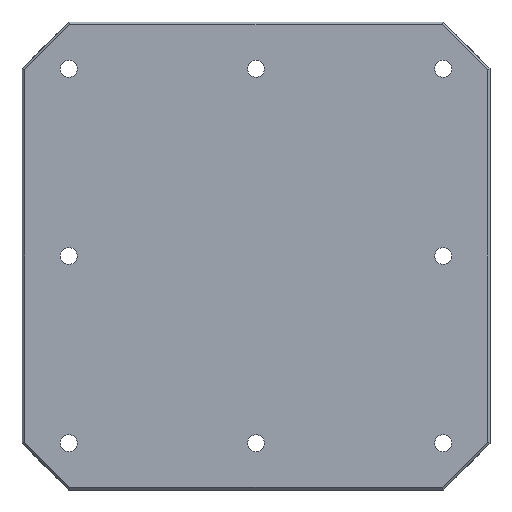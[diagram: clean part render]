
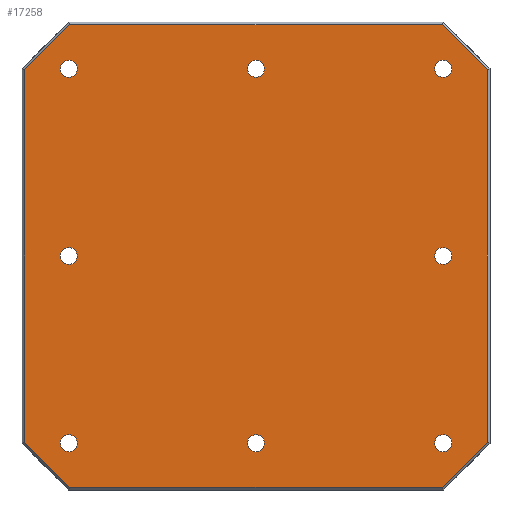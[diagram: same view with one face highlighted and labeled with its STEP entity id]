
A CAD part, front view. The second image highlights one B-rep face of the part: STEP entity #17258.
In plain terms, the highlighted planar face has unit normal (0, -1, 0).
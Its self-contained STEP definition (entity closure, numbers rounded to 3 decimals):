
#6049=CARTESIAN_POINT('',(200.,-30.,0.));
#6050=DIRECTION('',(0.,-1.,0.));
#6051=DIRECTION('',(1.,0.,0.));
#6052=AXIS2_PLACEMENT_3D('',#6049,#6050,#6051);
#6054=CARTESIAN_POINT('',(200.,-30.,0.));
#6055=DIRECTION('',(0.,-1.,0.));
#6056=DIRECTION('',(-1.,0.,0.));
#6057=AXIS2_PLACEMENT_3D('',#6054,#6055,#6056);
#6059=CARTESIAN_POINT('',(-200.,-30.,0.));
#6060=DIRECTION('',(0.,-1.,0.));
#6061=DIRECTION('',(1.,0.,0.));
#6062=AXIS2_PLACEMENT_3D('',#6059,#6060,#6061);
#6064=CARTESIAN_POINT('',(-200.,-30.,0.));
#6065=DIRECTION('',(0.,-1.,0.));
#6066=DIRECTION('',(-1.,0.,0.));
#6067=AXIS2_PLACEMENT_3D('',#6064,#6065,#6066);
#6069=CARTESIAN_POINT('',(200.,-30.,200.));
#6070=DIRECTION('',(0.,-1.,0.));
#6071=DIRECTION('',(1.,0.,0.));
#6072=AXIS2_PLACEMENT_3D('',#6069,#6070,#6071);
#6074=CARTESIAN_POINT('',(200.,-30.,200.));
#6075=DIRECTION('',(0.,-1.,0.));
#6076=DIRECTION('',(-1.,0.,0.));
#6077=AXIS2_PLACEMENT_3D('',#6074,#6075,#6076);
#6079=CARTESIAN_POINT('',(0.,-30.,200.));
#6080=DIRECTION('',(0.,-1.,0.));
#6081=DIRECTION('',(1.,0.,0.));
#6082=AXIS2_PLACEMENT_3D('',#6079,#6080,#6081);
#6084=CARTESIAN_POINT('',(0.,-30.,200.));
#6085=DIRECTION('',(0.,-1.,0.));
#6086=DIRECTION('',(-1.,0.,0.));
#6087=AXIS2_PLACEMENT_3D('',#6084,#6085,#6086);
#6089=CARTESIAN_POINT('',(-200.,-30.,200.));
#6090=DIRECTION('',(0.,-1.,0.));
#6091=DIRECTION('',(1.,0.,0.));
#6092=AXIS2_PLACEMENT_3D('',#6089,#6090,#6091);
#6094=CARTESIAN_POINT('',(-200.,-30.,200.));
#6095=DIRECTION('',(0.,-1.,0.));
#6096=DIRECTION('',(-1.,0.,0.));
#6097=AXIS2_PLACEMENT_3D('',#6094,#6095,#6096);
#6099=CARTESIAN_POINT('',(200.,-30.,-200.));
#6100=DIRECTION('',(0.,1.,0.));
#6101=DIRECTION('',(1.,0.,0.));
#6102=AXIS2_PLACEMENT_3D('',#6099,#6100,#6101);
#6104=CARTESIAN_POINT('',(200.,-30.,-200.));
#6105=DIRECTION('',(0.,1.,0.));
#6106=DIRECTION('',(-1.,0.,0.));
#6107=AXIS2_PLACEMENT_3D('',#6104,#6105,#6106);
#6109=CARTESIAN_POINT('',(0.,-30.,-200.));
#6110=DIRECTION('',(0.,1.,0.));
#6111=DIRECTION('',(1.,0.,0.));
#6112=AXIS2_PLACEMENT_3D('',#6109,#6110,#6111);
#6114=CARTESIAN_POINT('',(0.,-30.,-200.));
#6115=DIRECTION('',(0.,1.,0.));
#6116=DIRECTION('',(-1.,0.,0.));
#6117=AXIS2_PLACEMENT_3D('',#6114,#6115,#6116);
#6119=CARTESIAN_POINT('',(-200.,-30.,-200.));
#6120=DIRECTION('',(0.,1.,0.));
#6121=DIRECTION('',(1.,0.,0.));
#6122=AXIS2_PLACEMENT_3D('',#6119,#6120,#6121);
#6124=CARTESIAN_POINT('',(-200.,-30.,-200.));
#6125=DIRECTION('',(0.,1.,0.));
#6126=DIRECTION('',(-1.,0.,0.));
#6127=AXIS2_PLACEMENT_3D('',#6124,#6125,#6126);
#6129=DIRECTION('',(0.,0.,1.));
#6130=VECTOR('',#6129,397.515);
#6131=CARTESIAN_POINT('',(247.,-30.,-198.757));
#6132=LINE('',#6131,#6130);
#6133=DIRECTION('',(0.707,0.,0.707));
#6134=VECTOR('',#6133,68.225);
#6135=CARTESIAN_POINT('',(198.757,-30.,-247.));
#6136=LINE('',#6135,#6134);
#6137=DIRECTION('',(1.,0.,0.));
#6138=VECTOR('',#6137,397.515);
#6139=CARTESIAN_POINT('',(-198.757,-30.,-247.));
#6140=LINE('',#6139,#6138);
#6141=DIRECTION('',(0.707,0.,-0.707));
#6142=VECTOR('',#6141,68.225);
#6143=CARTESIAN_POINT('',(-247.,-30.,-198.757));
#6144=LINE('',#6143,#6142);
#6145=DIRECTION('',(0.,0.,-1.));
#6146=VECTOR('',#6145,397.515);
#6147=CARTESIAN_POINT('',(-247.,-30.,198.757));
#6148=LINE('',#6147,#6146);
#6149=DIRECTION('',(-0.707,0.,-0.707));
#6150=VECTOR('',#6149,68.225);
#6151=CARTESIAN_POINT('',(-198.757,-30.,247.));
#6152=LINE('',#6151,#6150);
#6153=DIRECTION('',(-1.,0.,0.));
#6154=VECTOR('',#6153,397.515);
#6155=CARTESIAN_POINT('',(198.757,-30.,247.));
#6156=LINE('',#6155,#6154);
#6157=DIRECTION('',(-0.707,0.,0.707));
#6158=VECTOR('',#6157,68.225);
#6159=CARTESIAN_POINT('',(247.,-30.,198.757));
#6160=LINE('',#6159,#6158);
#7701=CARTESIAN_POINT('',(-191.,-30.,-200.));
#7702=CARTESIAN_POINT('',(-209.,-30.,-200.));
#7703=VERTEX_POINT('',#7701);
#7704=VERTEX_POINT('',#7702);
#7745=CARTESIAN_POINT('',(9.,-30.,-200.));
#7746=CARTESIAN_POINT('',(-9.,-30.,-200.));
#7747=VERTEX_POINT('',#7745);
#7748=VERTEX_POINT('',#7746);
#7789=CARTESIAN_POINT('',(209.,-30.,-200.));
#7790=CARTESIAN_POINT('',(191.,-30.,-200.));
#7791=VERTEX_POINT('',#7789);
#7792=VERTEX_POINT('',#7790);
#7833=CARTESIAN_POINT('',(-191.,-30.,200.));
#7834=VERTEX_POINT('',#7833);
#7835=CARTESIAN_POINT('',(-209.,-30.,200.));
#7836=VERTEX_POINT('',#7835);
#7845=CARTESIAN_POINT('',(9.,-30.,200.));
#7846=VERTEX_POINT('',#7845);
#7847=CARTESIAN_POINT('',(-9.,-30.,200.));
#7848=VERTEX_POINT('',#7847);
#7857=CARTESIAN_POINT('',(209.,-30.,200.));
#7858=VERTEX_POINT('',#7857);
#7859=CARTESIAN_POINT('',(191.,-30.,200.));
#7860=VERTEX_POINT('',#7859);
#7973=CARTESIAN_POINT('',(-191.,-30.,0.));
#7974=VERTEX_POINT('',#7973);
#7975=CARTESIAN_POINT('',(-209.,-30.,0.));
#7976=VERTEX_POINT('',#7975);
#7977=CARTESIAN_POINT('',(209.,-30.,0.));
#7978=VERTEX_POINT('',#7977);
#7979=CARTESIAN_POINT('',(191.,-30.,0.));
#7980=VERTEX_POINT('',#7979);
#8871=CARTESIAN_POINT('',(247.,-30.,-198.757));
#8872=CARTESIAN_POINT('',(247.,-30.,198.757));
#8873=VERTEX_POINT('',#8871);
#8874=VERTEX_POINT('',#8872);
#8875=CARTESIAN_POINT('',(198.757,-30.,-247.));
#8876=VERTEX_POINT('',#8875);
#8881=CARTESIAN_POINT('',(-198.757,-30.,-247.));
#8882=VERTEX_POINT('',#8881);
#8883=CARTESIAN_POINT('',(-247.,-30.,-198.757));
#8884=VERTEX_POINT('',#8883);
#8889=CARTESIAN_POINT('',(-247.,-30.,198.757));
#8890=VERTEX_POINT('',#8889);
#8893=CARTESIAN_POINT('',(-198.757,-30.,247.));
#8894=VERTEX_POINT('',#8893);
#8897=CARTESIAN_POINT('',(198.757,-30.,247.));
#8898=VERTEX_POINT('',#8897);
#17188=CARTESIAN_POINT('',(0.,-30.,0.));
#17189=DIRECTION('',(0.,1.,0.));
#17190=DIRECTION('',(1.,0.,0.));
#17191=AXIS2_PLACEMENT_3D('',#17188,#17189,#17190);
#17192=PLANE('',#17191);
#17194=ORIENTED_EDGE('',*,*,#17193,.F.);
#17196=ORIENTED_EDGE('',*,*,#17195,.F.);
#17198=ORIENTED_EDGE('',*,*,#17197,.F.);
#17200=ORIENTED_EDGE('',*,*,#17199,.F.);
#17202=ORIENTED_EDGE('',*,*,#17201,.F.);
#17204=ORIENTED_EDGE('',*,*,#17203,.F.);
#17206=ORIENTED_EDGE('',*,*,#17205,.F.);
#17208=ORIENTED_EDGE('',*,*,#17207,.F.);
#17209=EDGE_LOOP('',(#17194,#17196,#17198,#17200,#17202,#17204,#17206,#17208));
#17210=FACE_OUTER_BOUND('',#17209,.F.);
#17212=ORIENTED_EDGE('',*,*,#17211,.T.);
#17214=ORIENTED_EDGE('',*,*,#17213,.T.);
#17215=EDGE_LOOP('',(#17212,#17214));
#17216=FACE_BOUND('',#17215,.F.);
#17218=ORIENTED_EDGE('',*,*,#17217,.T.);
#17220=ORIENTED_EDGE('',*,*,#17219,.T.);
#17221=EDGE_LOOP('',(#17218,#17220));
#17222=FACE_BOUND('',#17221,.F.);
#17224=ORIENTED_EDGE('',*,*,#17223,.T.);
#17226=ORIENTED_EDGE('',*,*,#17225,.T.);
#17227=EDGE_LOOP('',(#17224,#17226));
#17228=FACE_BOUND('',#17227,.F.);
#17230=ORIENTED_EDGE('',*,*,#17229,.T.);
#17232=ORIENTED_EDGE('',*,*,#17231,.T.);
#17233=EDGE_LOOP('',(#17230,#17232));
#17234=FACE_BOUND('',#17233,.F.);
#17236=ORIENTED_EDGE('',*,*,#17235,.F.);
#17237=ORIENTED_EDGE('',*,*,#17178,.F.);
#17238=EDGE_LOOP('',(#17236,#17237));
#17239=FACE_BOUND('',#17238,.F.);
#17241=ORIENTED_EDGE('',*,*,#17240,.F.);
#17243=ORIENTED_EDGE('',*,*,#17242,.F.);
#17244=EDGE_LOOP('',(#17241,#17243));
#17245=FACE_BOUND('',#17244,.F.);
#17247=ORIENTED_EDGE('',*,*,#17246,.F.);
#17249=ORIENTED_EDGE('',*,*,#17248,.F.);
#17250=EDGE_LOOP('',(#17247,#17249));
#17251=FACE_BOUND('',#17250,.F.);
#17253=ORIENTED_EDGE('',*,*,#17252,.T.);
#17255=ORIENTED_EDGE('',*,*,#17254,.T.);
#17256=EDGE_LOOP('',(#17253,#17255));
#17257=FACE_BOUND('',#17256,.F.);
#17258=ADVANCED_FACE('',(#17210,#17216,#17222,#17228,#17234,#17239,#17245,
#17251,#17257),#17192,.F.);
#6053=CIRCLE('',#6052,9.);
#6058=CIRCLE('',#6057,9.);
#6063=CIRCLE('',#6062,9.);
#6068=CIRCLE('',#6067,9.);
#6073=CIRCLE('',#6072,9.);
#6078=CIRCLE('',#6077,9.);
#6083=CIRCLE('',#6082,9.);
#6088=CIRCLE('',#6087,9.);
#6093=CIRCLE('',#6092,9.);
#6098=CIRCLE('',#6097,9.);
#6103=CIRCLE('',#6102,9.);
#6108=CIRCLE('',#6107,9.);
#6113=CIRCLE('',#6112,9.);
#6118=CIRCLE('',#6117,9.);
#6123=CIRCLE('',#6122,9.);
#6128=CIRCLE('',#6127,9.);
#17178=EDGE_CURVE('',#7792,#7791,#6108,.T.);
#17193=EDGE_CURVE('',#8873,#8874,#6132,.T.);
#17195=EDGE_CURVE('',#8876,#8873,#6136,.T.);
#17197=EDGE_CURVE('',#8882,#8876,#6140,.T.);
#17199=EDGE_CURVE('',#8884,#8882,#6144,.T.);
#17201=EDGE_CURVE('',#8890,#8884,#6148,.T.);
#17203=EDGE_CURVE('',#8894,#8890,#6152,.T.);
#17205=EDGE_CURVE('',#8898,#8894,#6156,.T.);
#17207=EDGE_CURVE('',#8874,#8898,#6160,.T.);
#17211=EDGE_CURVE('',#7974,#7976,#6063,.T.);
#17213=EDGE_CURVE('',#7976,#7974,#6068,.T.);
#17217=EDGE_CURVE('',#7858,#7860,#6073,.T.);
#17219=EDGE_CURVE('',#7860,#7858,#6078,.T.);
#17223=EDGE_CURVE('',#7846,#7848,#6083,.T.);
#17225=EDGE_CURVE('',#7848,#7846,#6088,.T.);
#17229=EDGE_CURVE('',#7834,#7836,#6093,.T.);
#17231=EDGE_CURVE('',#7836,#7834,#6098,.T.);
#17235=EDGE_CURVE('',#7791,#7792,#6103,.T.);
#17240=EDGE_CURVE('',#7747,#7748,#6113,.T.);
#17242=EDGE_CURVE('',#7748,#7747,#6118,.T.);
#17246=EDGE_CURVE('',#7703,#7704,#6123,.T.);
#17248=EDGE_CURVE('',#7704,#7703,#6128,.T.);
#17252=EDGE_CURVE('',#7978,#7980,#6053,.T.);
#17254=EDGE_CURVE('',#7980,#7978,#6058,.T.);
